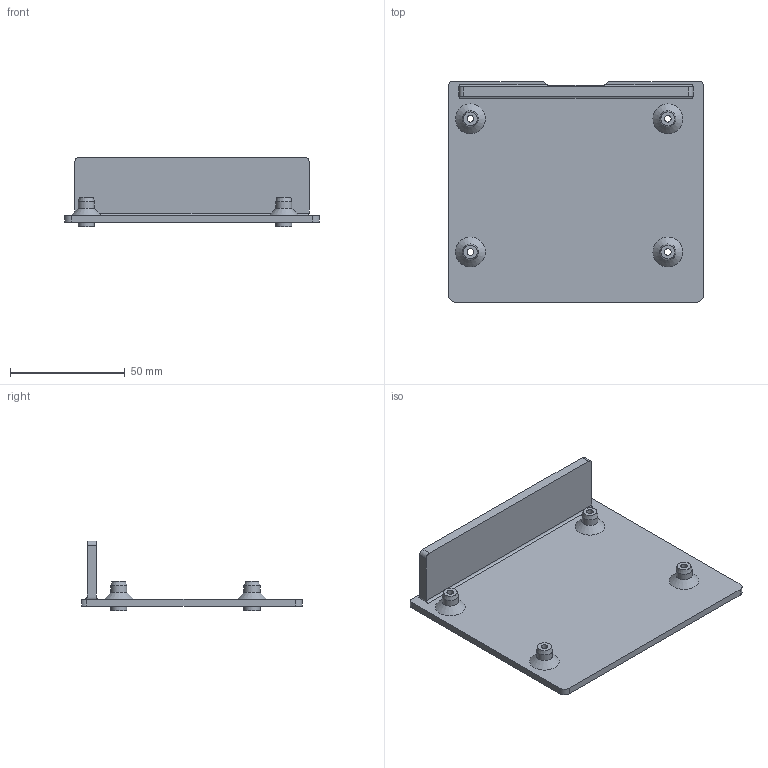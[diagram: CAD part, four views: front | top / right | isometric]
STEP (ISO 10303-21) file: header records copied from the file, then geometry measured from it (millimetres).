
FILE_DESCRIPTION(('FreeCAD Model'),'2;1');
FILE_NAME('Open CASCADE Shape Model','2026-10-26T18:20:31',('FreeCAD'),( 'FreeCAD'),'Open CASCADE STEP processor 7.8','FreeCAD','Unknown');
FILE_SCHEMA(('AUTOMOTIVE_DESIGN { 1 0 10303 214 1 1 1 1 }'));
Length unit declared in the file: millimetre
Products named in the file (1): Open CASCADE STEP translator 7.8 8
Bounding box: 111 x 96.16 x 30.3 mm (x, y, z)
Volume: 43881.7 mm3; surface area: 28886.2 mm2
Topology: 1 solids, 1 shells, 57 faces, 133 edges, 86 vertices
Faces by surface type: cylinder 25, plane 21, cone 8, bspline 3
Full cylindrical faces by diameter (mm): 2.9 x4, 7 x8
Entity records: 1794 total; most frequent: CARTESIAN_POINT 454, DIRECTION 283, ORIENTED_EDGE 266, EDGE_CURVE 133, AXIS2_PLACEMENT_3D 108, VERTEX_POINT 86, FACE_BOUND 73, EDGE_LOOP 73
